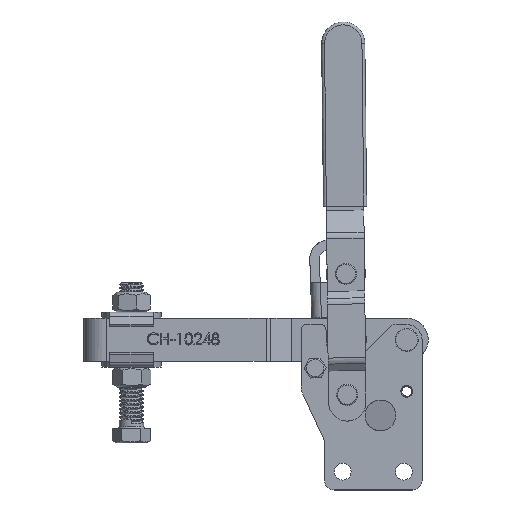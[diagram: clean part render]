
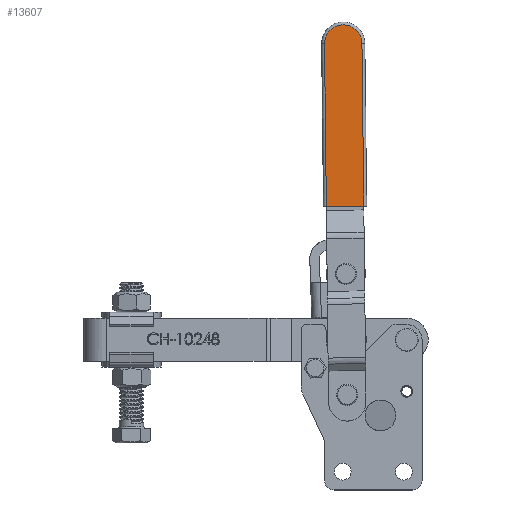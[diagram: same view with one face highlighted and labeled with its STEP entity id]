
A CAD part, top view. The second image highlights one B-rep face of the part: STEP entity #13607.
In plain terms, the highlighted planar face has unit normal (0, 0, 1).
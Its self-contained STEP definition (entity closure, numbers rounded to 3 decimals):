
#1186=PLANE('',#14797);
#1544=FACE_OUTER_BOUND('',#2318,.T.);
#2318=EDGE_LOOP('',(#9544,#9545,#9546,#9547));
#3164=LINE('',#19133,#4236);
#3177=LINE('',#19161,#4249);
#3178=LINE('',#19162,#4250);
#4236=VECTOR('',#16065,1000.);
#4249=VECTOR('',#16092,1000.);
#4250=VECTOR('',#16093,1000.);
#5310=CIRCLE('',#14787,9.75);
#5746=VERTEX_POINT('',#19121);
#5747=VERTEX_POINT('',#19123);
#5750=VERTEX_POINT('',#19130);
#5751=VERTEX_POINT('',#19132);
#7230=EDGE_CURVE('',#5747,#5746,#5310,.T.);
#7234=EDGE_CURVE('',#5751,#5750,#3164,.T.);
#7250=EDGE_CURVE('',#5750,#5747,#3177,.T.);
#7251=EDGE_CURVE('',#5746,#5751,#3178,.T.);
#9544=ORIENTED_EDGE('',*,*,#7234,.T.);
#9545=ORIENTED_EDGE('',*,*,#7250,.T.);
#9546=ORIENTED_EDGE('',*,*,#7230,.T.);
#9547=ORIENTED_EDGE('',*,*,#7251,.T.);
#13607=ADVANCED_FACE('',(#1544),#1186,.T.);
#14787=AXIS2_PLACEMENT_3D('',#19124,#16056,#16057);
#14797=AXIS2_PLACEMENT_3D('',#19160,#16090,#16091);
#16056=DIRECTION('center_axis',(0.,0.,1.));
#16057=DIRECTION('ref_axis',(1.,0.,0.));
#16065=DIRECTION('',(0.,-1.,0.));
#16090=DIRECTION('center_axis',(0.,0.,1.));
#16091=DIRECTION('ref_axis',(1.,0.,0.));
#16092=DIRECTION('',(1.,0.,0.));
#16093=DIRECTION('',(-1.,0.,0.));
#19121=CARTESIAN_POINT('',(0.,9.75,13.));
#19123=CARTESIAN_POINT('',(0.,-9.75,13.));
#19124=CARTESIAN_POINT('Origin',(0.,0.,13.));
#19130=CARTESIAN_POINT('',(-84.75,-9.75,13.));
#19132=CARTESIAN_POINT('',(-84.75,9.75,13.));
#19133=CARTESIAN_POINT('',(-84.75,-11.25,13.));
#19160=CARTESIAN_POINT('Origin',(0.,0.,13.));
#19161=CARTESIAN_POINT('',(0.,-9.75,13.));
#19162=CARTESIAN_POINT('',(-84.75,9.75,13.));
